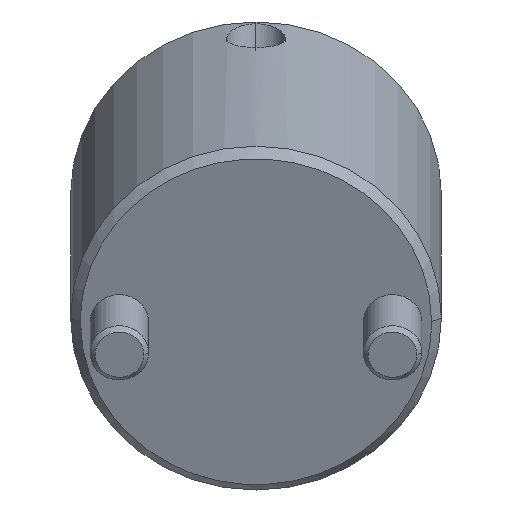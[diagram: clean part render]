
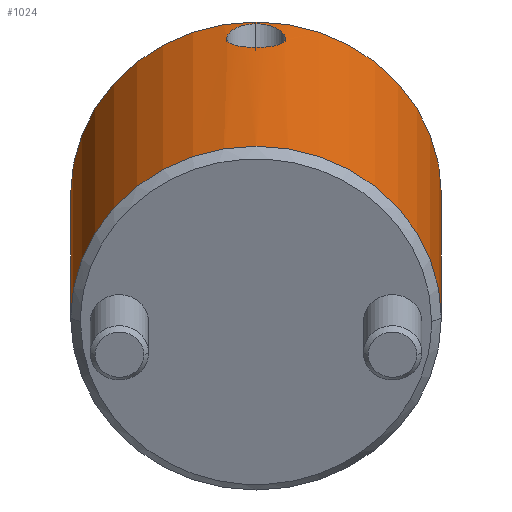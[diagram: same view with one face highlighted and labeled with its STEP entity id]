
A CAD part, front view. The second image highlights one B-rep face of the part: STEP entity #1024.
In plain terms, the highlighted cylindrical face has radius 19 mm (diameter 38 mm), a partial arc.
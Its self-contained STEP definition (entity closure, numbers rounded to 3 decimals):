
#760=CARTESIAN_POINT('Vertex',(0.,19.,1.)) ;
#763=CARTESIAN_POINT('Axis2P3D Location',(0.,0.,1.)) ;
#767=CARTESIAN_POINT('Vertex',(0.,-19.,1.)) ;
#919=CARTESIAN_POINT('Axis2P3D Location',(0.,0.,-1.8)) ;
#924=CARTESIAN_POINT('Line Origine',(0.,19.,-1.8)) ;
#928=CARTESIAN_POINT('Vertex',(0.,19.,35.)) ;
#931=CARTESIAN_POINT('Axis2P3D Location',(0.,0.,35.)) ;
#935=CARTESIAN_POINT('Vertex',(0.,-19.,35.)) ;
#938=CARTESIAN_POINT('Line Origine',(0.,-19.,-1.8)) ;
#950=CARTESIAN_POINT('Control Point',(19.,0.,34.507)) ;
#951=CARTESIAN_POINT('Control Point',(19.,0.078,34.507)) ;
#952=CARTESIAN_POINT('Control Point',(19.,0.156,34.504)) ;
#953=CARTESIAN_POINT('Control Point',(18.999,0.234,34.499)) ;
#954=CARTESIAN_POINT('Control Point',(18.995,0.47,34.472)) ;
#955=CARTESIAN_POINT('Control Point',(18.988,0.703,34.419)) ;
#956=CARTESIAN_POINT('Control Point',(18.981,0.862,34.37)) ;
#957=CARTESIAN_POINT('Control Point',(18.965,1.168,34.251)) ;
#958=CARTESIAN_POINT('Control Point',(18.945,1.453,34.089)) ;
#959=CARTESIAN_POINT('Control Point',(18.934,1.593,33.995)) ;
#960=CARTESIAN_POINT('Control Point',(18.91,1.863,33.786)) ;
#961=CARTESIAN_POINT('Control Point',(18.883,2.106,33.539)) ;
#962=CARTESIAN_POINT('Control Point',(18.87,2.221,33.405)) ;
#963=CARTESIAN_POINT('Control Point',(18.837,2.49,33.046)) ;
#964=CARTESIAN_POINT('Control Point',(18.807,2.702,32.64)) ;
#965=CARTESIAN_POINT('Control Point',(18.792,2.805,32.385)) ;
#966=CARTESIAN_POINT('Control Point',(18.772,2.935,31.94)) ;
#967=CARTESIAN_POINT('Control Point',(18.763,2.994,31.483)) ;
#968=CARTESIAN_POINT('Control Point',(18.761,3.005,31.302)) ;
#969=CARTESIAN_POINT('Control Point',(18.761,3.004,30.851)) ;
#970=CARTESIAN_POINT('Control Point',(18.773,2.929,30.409)) ;
#971=CARTESIAN_POINT('Control Point',(18.784,2.861,30.153)) ;
#972=CARTESIAN_POINT('Control Point',(18.812,2.672,29.665)) ;
#973=CARTESIAN_POINT('Control Point',(18.85,2.389,29.227)) ;
#974=CARTESIAN_POINT('Control Point',(18.87,2.229,29.028)) ;
#975=CARTESIAN_POINT('Control Point',(18.904,1.929,28.729)) ;
#976=CARTESIAN_POINT('Control Point',(18.935,1.584,28.489)) ;
#977=CARTESIAN_POINT('Control Point',(18.946,1.44,28.403)) ;
#978=CARTESIAN_POINT('Control Point',(18.971,1.083,28.223)) ;
#979=CARTESIAN_POINT('Control Point',(18.989,0.697,28.106)) ;
#980=CARTESIAN_POINT('Control Point',(18.996,0.466,28.059)) ;
#981=CARTESIAN_POINT('Control Point',(19.,0.234,28.036)) ;
#982=CARTESIAN_POINT('Control Point',(19.,0.,28.036)) ;
#983=CARTESIAN_POINT('Vertex',(19.,0.,34.507)) ;
#985=CARTESIAN_POINT('Vertex',(19.,0.,28.036)) ;
#989=CARTESIAN_POINT('Control Point',(19.,0.,28.036)) ;
#990=CARTESIAN_POINT('Control Point',(19.,-0.083,28.036)) ;
#991=CARTESIAN_POINT('Control Point',(19.,-0.167,28.039)) ;
#992=CARTESIAN_POINT('Control Point',(18.999,-0.25,28.045)) ;
#993=CARTESIAN_POINT('Control Point',(18.995,-0.498,28.071)) ;
#994=CARTESIAN_POINT('Control Point',(18.987,-0.743,28.124)) ;
#995=CARTESIAN_POINT('Control Point',(18.979,-0.906,28.171)) ;
#996=CARTESIAN_POINT('Control Point',(18.954,-1.38,28.345)) ;
#997=CARTESIAN_POINT('Control Point',(18.917,-1.805,28.617)) ;
#998=CARTESIAN_POINT('Control Point',(18.89,-2.065,28.838)) ;
#999=CARTESIAN_POINT('Control Point',(18.842,-2.459,29.289)) ;
#1000=CARTESIAN_POINT('Control Point',(18.802,-2.738,29.829)) ;
#1001=CARTESIAN_POINT('Control Point',(18.788,-2.834,30.072)) ;
#1002=CARTESIAN_POINT('Control Point',(18.769,-2.952,30.499)) ;
#1003=CARTESIAN_POINT('Control Point',(18.762,-2.999,30.944)) ;
#1004=CARTESIAN_POINT('Control Point',(18.761,-3.007,31.124)) ;
#1005=CARTESIAN_POINT('Control Point',(18.762,-2.996,31.58)) ;
#1006=CARTESIAN_POINT('Control Point',(18.776,-2.91,32.034)) ;
#1007=CARTESIAN_POINT('Control Point',(18.788,-2.833,32.302)) ;
#1008=CARTESIAN_POINT('Control Point',(18.818,-2.629,32.814)) ;
#1009=CARTESIAN_POINT('Control Point',(18.857,-2.334,33.273)) ;
#1010=CARTESIAN_POINT('Control Point',(18.877,-2.167,33.484)) ;
#1011=CARTESIAN_POINT('Control Point',(18.91,-1.864,33.795)) ;
#1012=CARTESIAN_POINT('Control Point',(18.94,-1.519,34.046)) ;
#1013=CARTESIAN_POINT('Control Point',(18.951,-1.378,34.134)) ;
#1014=CARTESIAN_POINT('Control Point',(18.974,-1.034,34.316)) ;
#1015=CARTESIAN_POINT('Control Point',(18.99,-0.66,34.437)) ;
#1016=CARTESIAN_POINT('Control Point',(18.997,-0.44,34.485)) ;
#1017=CARTESIAN_POINT('Control Point',(19.,-0.221,34.507)) ;
#1018=CARTESIAN_POINT('Control Point',(19.,0.,34.507)) ;
#764=DIRECTION('Axis2P3D Direction',(0.,0.,1.)) ;
#920=DIRECTION('Axis2P3D Direction',(0.,-0.,1.)) ;
#921=DIRECTION('Axis2P3D XDirection',(0.,-1.,0.)) ;
#925=DIRECTION('Vector Direction',(0.,0.,1.)) ;
#932=DIRECTION('Axis2P3D Direction',(0.,-0.,1.)) ;
#939=DIRECTION('Vector Direction',(0.,0.,1.)) ;
#765=AXIS2_PLACEMENT_3D('Circle Axis2P3D',#763,#764,$) ;
#922=AXIS2_PLACEMENT_3D('Cylinder Axis2P3D',#919,#920,#921) ;
#933=AXIS2_PLACEMENT_3D('Circle Axis2P3D',#931,#932,$) ;
#944=ORIENTED_EDGE('',*,*,#930,.F.) ;
#945=ORIENTED_EDGE('',*,*,#937,.T.) ;
#946=ORIENTED_EDGE('',*,*,#942,.T.) ;
#947=ORIENTED_EDGE('',*,*,#769,.F.) ;
#1021=ORIENTED_EDGE('',*,*,#987,.T.) ;
#1022=ORIENTED_EDGE('',*,*,#1019,.T.) ;
#1023=FACE_BOUND('',#1020,.T.) ;
#926=VECTOR('Line Direction',#925,1.) ;
#940=VECTOR('Line Direction',#939,1.) ;
#1024=ADVANCED_FACE('MANIFOLD_SOLID_BREP #1118',(#948,#1023),#923,.T.) ;
#949=B_SPLINE_CURVE_WITH_KNOTS('',5,(#950,#951,#952,#953,#954,#955,#956,#957,#958,#959,#960,#961,#962,#963,#964,#965,#966,#967,#968,#969,#970,#971,#972,#973,#974,#975,#976,#977,#978,#979,#980,#981,#982),.UNSPECIFIED.,.F.,.U.,(6,3,3,3,3,3,3,3,3,3,6),(0.,0.58,1.759,2.976,4.225,6.108,7.354,9.198,11.01,12.214,13.887),.UNSPECIFIED.) ;
#988=B_SPLINE_CURVE_WITH_KNOTS('',5,(#989,#990,#991,#992,#993,#994,#995,#996,#997,#998,#999,#1000,#1001,#1002,#1003,#1004,#1005,#1006,#1007,#1008,#1009,#1010,#1011,#1012,#1013,#1014,#1015,#1016,#1017,#1018),.UNSPECIFIED.,.F.,.U.,(6,3,3,3,3,3,3,3,3,6),(0.,0.6,1.803,4.225,6.063,7.301,9.178,11.046,12.251,13.886),.UNSPECIFIED.) ;
#766=CIRCLE('generated circle',#765,19.) ;
#934=CIRCLE('generated circle',#933,19.) ;
#923=CYLINDRICAL_SURFACE('generated cylinder',#922,19.) ;
#769=EDGE_CURVE('',#761,#768,#766,.F.) ;
#930=EDGE_CURVE('',#929,#761,#927,.F.) ;
#937=EDGE_CURVE('',#929,#936,#934,.F.) ;
#942=EDGE_CURVE('',#936,#768,#941,.F.) ;
#987=EDGE_CURVE('',#984,#986,#949,.T.) ;
#1019=EDGE_CURVE('',#986,#984,#988,.T.) ;
#943=EDGE_LOOP('',(#944,#945,#946,#947)) ;
#1020=EDGE_LOOP('',(#1021,#1022)) ;
#948=FACE_OUTER_BOUND('',#943,.T.) ;
#927=LINE('Line',#924,#926) ;
#941=LINE('Line',#938,#940) ;
#761=VERTEX_POINT('',#760) ;
#768=VERTEX_POINT('',#767) ;
#929=VERTEX_POINT('',#928) ;
#936=VERTEX_POINT('',#935) ;
#984=VERTEX_POINT('',#983) ;
#986=VERTEX_POINT('',#985) ;
